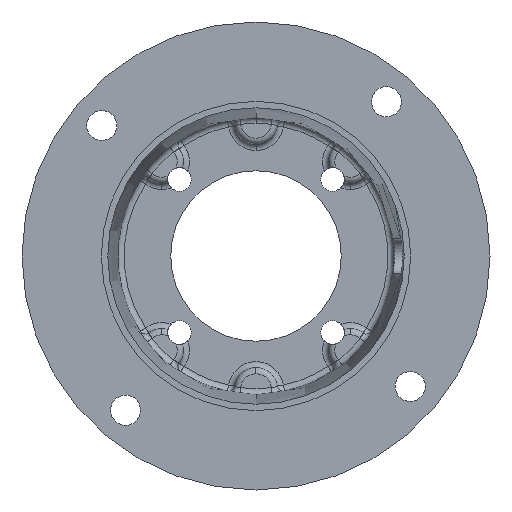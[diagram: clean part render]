
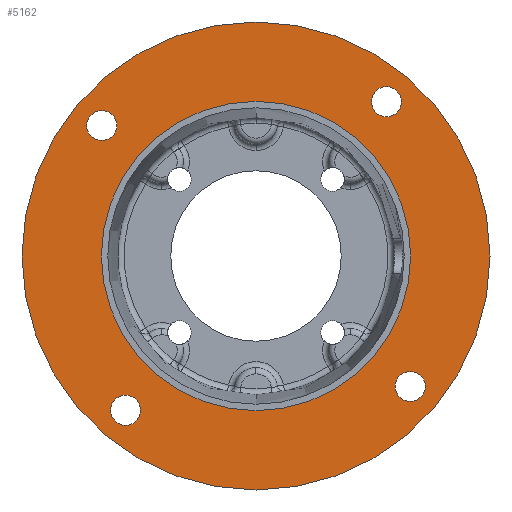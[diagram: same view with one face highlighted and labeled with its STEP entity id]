
A CAD part, front view. The second image highlights one B-rep face of the part: STEP entity #5162.
In plain terms, the highlighted planar face has unit normal (0, -1, 0).
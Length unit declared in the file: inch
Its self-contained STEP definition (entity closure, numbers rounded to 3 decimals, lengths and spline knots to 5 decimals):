
#32 = DIRECTION ( 'NONE',  ( 0., -1., 0. ) ) ;
#120 = CARTESIAN_POINT ( 'NONE',  ( 0., 0.103, 2.2505 ) ) ;
#149 = CARTESIAN_POINT ( 'NONE',  ( 1.89861, 0.103, 2.026 ) ) ;
#152 = AXIS2_PLACEMENT_3D ( 'NONE', #3292, #7506, #3907 ) ;
#307 = CIRCLE ( 'NONE', #7404, 0.21875 ) ;
#338 = AXIS2_PLACEMENT_3D ( 'NONE', #1467, #5677, #2076 ) ;
#470 = CIRCLE ( 'NONE', #152, 0.21875 ) ;
#524 = DIRECTION ( 'NONE',  ( 0., -1., 0. ) ) ;
#537 = EDGE_CURVE ( 'NONE', #6651, #7287, #5324, .T. ) ;
#589 = CARTESIAN_POINT ( 'NONE',  ( -2.24475, 0.103, 1.89861 ) ) ;
#708 = CIRCLE ( 'NONE', #2898, 2.2505 ) ;
#740 = DIRECTION ( 'NONE',  ( 0., -1., 0. ) ) ;
#815 = CARTESIAN_POINT ( 'NONE',  ( 0., 0.103, 0. ) ) ;
#857 = ORIENTED_EDGE ( 'NONE', *, *, #1433, .F. ) ;
#955 = CIRCLE ( 'NONE', #2040, 0.21875 ) ;
#1017 = EDGE_LOOP ( 'NONE', ( #1311, #4794 ) ) ;
#1051 = CIRCLE ( 'NONE', #4788, 2.2505 ) ;
#1079 = ORIENTED_EDGE ( 'NONE', *, *, #2141, .F. ) ;
#1193 = DIRECTION ( 'NONE',  ( 0., 0., -1. ) ) ;
#1199 = EDGE_LOOP ( 'NONE', ( #2698, #857 ) ) ;
#1311 = ORIENTED_EDGE ( 'NONE', *, *, #5289, .F. ) ;
#1337 = VERTEX_POINT ( 'NONE', #149 ) ;
#1360 = FACE_OUTER_BOUND ( 'NONE', #6194, .T. ) ;
#1425 = DIRECTION ( 'NONE',  ( 0., 0., -1. ) ) ;
#1433 = EDGE_CURVE ( 'NONE', #4707, #5168, #307, .T. ) ;
#1439 = AXIS2_PLACEMENT_3D ( 'NONE', #3660, #32, #4258 ) ;
#1467 = CARTESIAN_POINT ( 'NONE',  ( 2.24475, 0.103, -1.89861 ) ) ;
#1558 = VERTEX_POINT ( 'NONE', #6932 ) ;
#1799 = VERTEX_POINT ( 'NONE', #120 ) ;
#1932 = AXIS2_PLACEMENT_3D ( 'NONE', #589, #4818, #1193 ) ;
#1938 = DIRECTION ( 'NONE',  ( 0., -1., 0. ) ) ;
#1961 = CARTESIAN_POINT ( 'NONE',  ( -1.89861, 0.103, -2.4635 ) ) ;
#2040 = AXIS2_PLACEMENT_3D ( 'NONE', #2646, #6865, #3257 ) ;
#2076 = DIRECTION ( 'NONE',  ( 0., 0., -1. ) ) ;
#2118 = ORIENTED_EDGE ( 'NONE', *, *, #6748, .F. ) ;
#2141 = EDGE_CURVE ( 'NONE', #5172, #4563, #7091, .T. ) ;
#2204 = CARTESIAN_POINT ( 'NONE',  ( 0., 0.103, 0. ) ) ;
#2289 = ORIENTED_EDGE ( 'NONE', *, *, #5229, .F. ) ;
#2315 = CARTESIAN_POINT ( 'NONE',  ( -2.24475, 0.103, 1.67986 ) ) ;
#2604 = CARTESIAN_POINT ( 'NONE',  ( 0., 0.103, 0. ) ) ;
#2606 = CARTESIAN_POINT ( 'NONE',  ( 1.89861, 0.103, 2.4635 ) ) ;
#2646 = CARTESIAN_POINT ( 'NONE',  ( -1.89861, 0.103, -2.24475 ) ) ;
#2698 = ORIENTED_EDGE ( 'NONE', *, *, #7693, .F. ) ;
#2802 = DIRECTION ( 'NONE',  ( 0., 0., -1. ) ) ;
#2817 = DIRECTION ( 'NONE',  ( 0., -1., 0. ) ) ;
#2841 = VERTEX_POINT ( 'NONE', #5217 ) ;
#2865 = ORIENTED_EDGE ( 'NONE', *, *, #4831, .F. ) ;
#2898 = AXIS2_PLACEMENT_3D ( 'NONE', #5541, #1938, #6143 ) ;
#2983 = FACE_BOUND ( 'NONE', #1017, .T. ) ;
#3001 = CARTESIAN_POINT ( 'NONE',  ( 0., 0.103, -3.405 ) ) ;
#3066 = EDGE_CURVE ( 'NONE', #2841, #6628, #4153, .T. ) ;
#3127 = CARTESIAN_POINT ( 'NONE',  ( 0., 0.103, 0. ) ) ;
#3208 = DIRECTION ( 'NONE',  ( 0., 0., -1. ) ) ;
#3257 = DIRECTION ( 'NONE',  ( 0., 0., -1. ) ) ;
#3292 = CARTESIAN_POINT ( 'NONE',  ( 1.89861, 0.103, 2.24475 ) ) ;
#3343 = EDGE_CURVE ( 'NONE', #7287, #6651, #3598, .T. ) ;
#3508 = ORIENTED_EDGE ( 'NONE', *, *, #3066, .F. ) ;
#3567 = AXIS2_PLACEMENT_3D ( 'NONE', #3127, #740, #4965 ) ;
#3596 = VERTEX_POINT ( 'NONE', #2606 ) ;
#3598 = CIRCLE ( 'NONE', #3788, 3.405 ) ;
#3654 = EDGE_LOOP ( 'NONE', ( #2118, #3508 ) ) ;
#3660 = CARTESIAN_POINT ( 'NONE',  ( -2.24475, 0.103, 1.89861 ) ) ;
#3724 = DIRECTION ( 'NONE',  ( 0., 0., -1. ) ) ;
#3743 = AXIS2_PLACEMENT_3D ( 'NONE', #6441, #2817, #7034 ) ;
#3788 = AXIS2_PLACEMENT_3D ( 'NONE', #815, #5043, #1425 ) ;
#3907 = DIRECTION ( 'NONE',  ( 0., 0., -1. ) ) ;
#3957 = CIRCLE ( 'NONE', #1439, 0.21875 ) ;
#4012 = EDGE_CURVE ( 'NONE', #3596, #1337, #4119, .T. ) ;
#4119 = CIRCLE ( 'NONE', #7129, 0.21875 ) ;
#4136 = CARTESIAN_POINT ( 'NONE',  ( 1.89861, 0.103, 2.24475 ) ) ;
#4153 = CIRCLE ( 'NONE', #1932, 0.21875 ) ;
#4258 = DIRECTION ( 'NONE',  ( 0., 0., -1. ) ) ;
#4348 = PLANE ( 'NONE',  #3567 ) ;
#4563 = VERTEX_POINT ( 'NONE', #5889 ) ;
#4593 = FACE_BOUND ( 'NONE', #3654, .T. ) ;
#4707 = VERTEX_POINT ( 'NONE', #5037 ) ;
#4759 = DIRECTION ( 'NONE',  ( 0., 0., -1. ) ) ;
#4788 = AXIS2_PLACEMENT_3D ( 'NONE', #2604, #6829, #3208 ) ;
#4794 = ORIENTED_EDGE ( 'NONE', *, *, #4012, .F. ) ;
#4816 = ORIENTED_EDGE ( 'NONE', *, *, #3343, .T. ) ;
#4818 = DIRECTION ( 'NONE',  ( 0., -1., 0. ) ) ;
#4831 = EDGE_CURVE ( 'NONE', #1558, #1799, #708, .T. ) ;
#4965 = DIRECTION ( 'NONE',  ( 0., 0., -1. ) ) ;
#5037 = CARTESIAN_POINT ( 'NONE',  ( 2.24475, 0.103, -1.67986 ) ) ;
#5043 = DIRECTION ( 'NONE',  ( 0., -1., 0. ) ) ;
#5162 = ADVANCED_FACE ( 'NONE', ( #2983, #4593, #6178, #7643, #6037, #1360 ), #4348, .T. ) ;
#5168 = VERTEX_POINT ( 'NONE', #6755 ) ;
#5172 = VERTEX_POINT ( 'NONE', #1961 ) ;
#5182 = CIRCLE ( 'NONE', #338, 0.21875 ) ;
#5187 = CARTESIAN_POINT ( 'NONE',  ( 2.24475, 0.103, -1.89861 ) ) ;
#5217 = CARTESIAN_POINT ( 'NONE',  ( -2.24475, 0.103, 2.11736 ) ) ;
#5229 = EDGE_CURVE ( 'NONE', #1799, #1558, #1051, .T. ) ;
#5270 = CARTESIAN_POINT ( 'NONE',  ( 0., 0.103, 3.405 ) ) ;
#5273 = ORIENTED_EDGE ( 'NONE', *, *, #5674, .F. ) ;
#5289 = EDGE_CURVE ( 'NONE', #1337, #3596, #470, .T. ) ;
#5324 = CIRCLE ( 'NONE', #5860, 3.405 ) ;
#5541 = CARTESIAN_POINT ( 'NONE',  ( 0., 0.103, 0. ) ) ;
#5674 = EDGE_CURVE ( 'NONE', #4563, #5172, #955, .T. ) ;
#5677 = DIRECTION ( 'NONE',  ( 0., -1., 0. ) ) ;
#5860 = AXIS2_PLACEMENT_3D ( 'NONE', #2204, #6425, #2802 ) ;
#5889 = CARTESIAN_POINT ( 'NONE',  ( -1.89861, 0.103, -2.026 ) ) ;
#6037 = FACE_BOUND ( 'NONE', #7400, .T. ) ;
#6143 = DIRECTION ( 'NONE',  ( 0., 0., -1. ) ) ;
#6178 = FACE_BOUND ( 'NONE', #1199, .T. ) ;
#6194 = EDGE_LOOP ( 'NONE', ( #4816, #6834 ) ) ;
#6398 = EDGE_LOOP ( 'NONE', ( #1079, #5273 ) ) ;
#6425 = DIRECTION ( 'NONE',  ( 0., -1., 0. ) ) ;
#6441 = CARTESIAN_POINT ( 'NONE',  ( -1.89861, 0.103, -2.24475 ) ) ;
#6628 = VERTEX_POINT ( 'NONE', #2315 ) ;
#6651 = VERTEX_POINT ( 'NONE', #5270 ) ;
#6748 = EDGE_CURVE ( 'NONE', #6628, #2841, #3957, .T. ) ;
#6755 = CARTESIAN_POINT ( 'NONE',  ( 2.24475, 0.103, -2.11736 ) ) ;
#6829 = DIRECTION ( 'NONE',  ( 0., -1., 0. ) ) ;
#6834 = ORIENTED_EDGE ( 'NONE', *, *, #537, .T. ) ;
#6865 = DIRECTION ( 'NONE',  ( 0., -1., 0. ) ) ;
#6932 = CARTESIAN_POINT ( 'NONE',  ( 0., 0.103, -2.2505 ) ) ;
#7034 = DIRECTION ( 'NONE',  ( 0., 0., -1. ) ) ;
#7091 = CIRCLE ( 'NONE', #3743, 0.21875 ) ;
#7129 = AXIS2_PLACEMENT_3D ( 'NONE', #4136, #524, #4759 ) ;
#7287 = VERTEX_POINT ( 'NONE', #3001 ) ;
#7315 = DIRECTION ( 'NONE',  ( 0., -1., 0. ) ) ;
#7400 = EDGE_LOOP ( 'NONE', ( #2865, #2289 ) ) ;
#7404 = AXIS2_PLACEMENT_3D ( 'NONE', #5187, #7315, #3724 ) ;
#7506 = DIRECTION ( 'NONE',  ( 0., -1., 0. ) ) ;
#7643 = FACE_BOUND ( 'NONE', #6398, .T. ) ;
#7693 = EDGE_CURVE ( 'NONE', #5168, #4707, #5182, .T. ) ;
